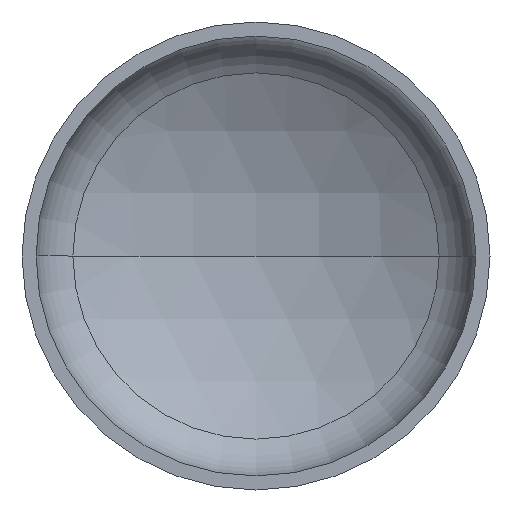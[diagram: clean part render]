
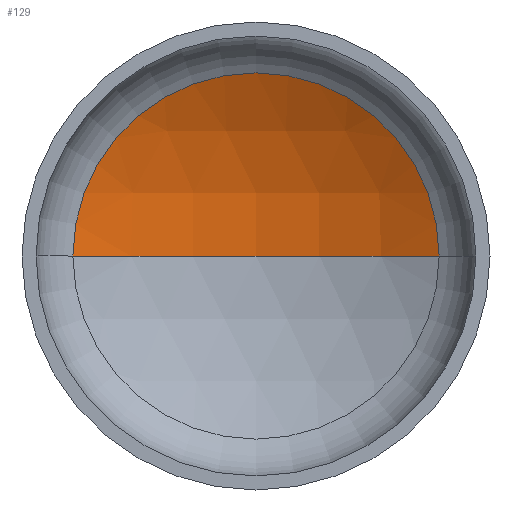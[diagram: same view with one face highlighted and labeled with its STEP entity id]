
A CAD part, front view. The second image highlights one B-rep face of the part: STEP entity #129.
In plain terms, the highlighted spherical face has radius 960 mm.
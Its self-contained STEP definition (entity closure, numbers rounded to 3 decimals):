
#11 = AXIS2_PLACEMENT_3D ( 'NONE', #280, #95, #368 ) ;
#15 = AXIS2_PLACEMENT_3D ( 'NONE', #275, #94, #307 ) ;
#16 = AXIS2_PLACEMENT_3D ( 'NONE', #192, #391, #220 ) ;
#18 = AXIS2_PLACEMENT_3D ( 'NONE', #278, #274, #256 ) ;
#36 = CARTESIAN_POINT ( 'NONE',  ( -469.471, 271.369, 0. ) ) ;
#54 = EDGE_CURVE ( 'NONE', #83, #93, #97, .T. ) ;
#55 = EDGE_CURVE ( 'NONE', #68, #83, #407, .T. ) ;
#57 = EDGE_CURVE ( 'NONE', #68, #93, #252, .T. ) ;
#68 = VERTEX_POINT ( 'NONE', #365 ) ;
#71 = EDGE_LOOP ( 'NONE', ( #363, #402, #386 ) ) ;
#83 = VERTEX_POINT ( 'NONE', #193 ) ;
#93 = VERTEX_POINT ( 'NONE', #36 ) ;
#94 = DIRECTION ( 'NONE',  ( 0., 0., 1. ) ) ;
#95 = DIRECTION ( 'NONE',  ( 0., 0., -1. ) ) ;
#97 = CIRCLE ( 'NONE', #18, 469.471 ) ;
#129 = ADVANCED_FACE ( 'NONE', ( #162 ), #330, .F. ) ;
#162 = FACE_OUTER_BOUND ( 'NONE', #71, .T. ) ;
#192 = CARTESIAN_POINT ( 'NONE',  ( 0., -566.006, 0. ) ) ;
#193 = CARTESIAN_POINT ( 'NONE',  ( 469.471, 271.369, 0. ) ) ;
#220 = DIRECTION ( 'NONE',  ( -1., 0., 0. ) ) ;
#252 = CIRCLE ( 'NONE', #15, 960. ) ;
#256 = DIRECTION ( 'NONE',  ( 1., 0., 0. ) ) ;
#274 = DIRECTION ( 'NONE',  ( 0., -1., 0. ) ) ;
#275 = CARTESIAN_POINT ( 'NONE',  ( 0., -566.006, 0. ) ) ;
#278 = CARTESIAN_POINT ( 'NONE',  ( 0., 271.369, 0. ) ) ;
#280 = CARTESIAN_POINT ( 'NONE',  ( 0., -566.006, 0. ) ) ;
#307 = DIRECTION ( 'NONE',  ( 1., 0., 0. ) ) ;
#330 = SPHERICAL_SURFACE ( 'NONE', #11, 960. ) ;
#363 = ORIENTED_EDGE ( 'NONE', *, *, #57, .F. ) ;
#365 = CARTESIAN_POINT ( 'NONE',  ( 0., 393.994, 0. ) ) ;
#368 = DIRECTION ( 'NONE',  ( -1., 0., 0. ) ) ;
#386 = ORIENTED_EDGE ( 'NONE', *, *, #54, .T. ) ;
#391 = DIRECTION ( 'NONE',  ( 0., 0., -1. ) ) ;
#402 = ORIENTED_EDGE ( 'NONE', *, *, #55, .T. ) ;
#407 = CIRCLE ( 'NONE', #16, 960. ) ;
